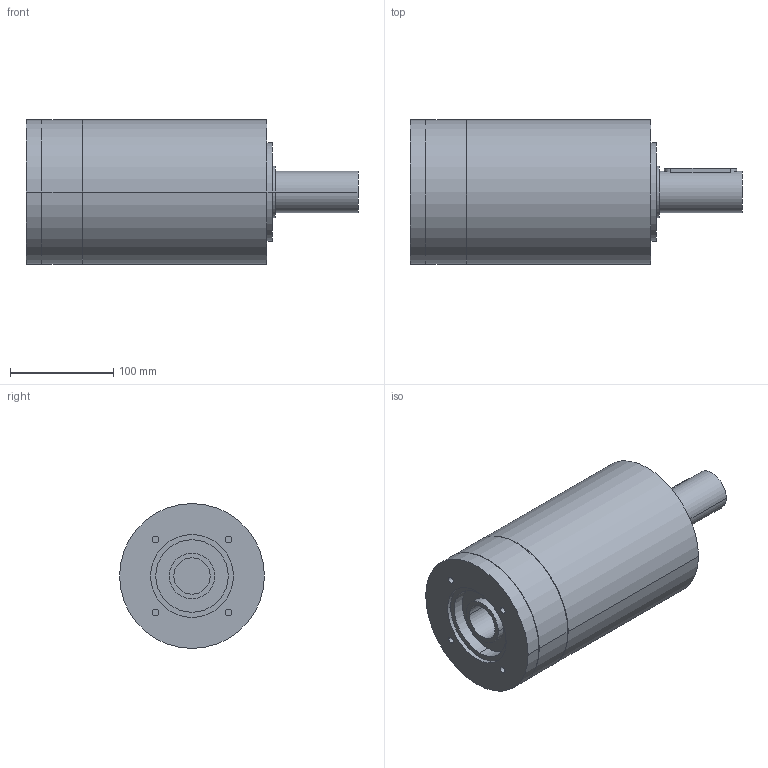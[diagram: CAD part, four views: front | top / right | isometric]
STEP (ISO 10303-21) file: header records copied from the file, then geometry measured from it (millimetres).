
FILE_DESCRIPTION(('CoCreate Modeling STEP Export'),'2;1');
FILE_NAME('GPR150_ig-9-12-16-20-28-35_40_B14_35_P02.stp','2014-08-19T17:04:12',(''),(''),'CoCreate Modeling STEP processor for AP214 (Solid Model)','CoCreate Modeling 16.00C 25-Feb-2009 (C) Parametric Technology GmbH','');
FILE_SCHEMA(('AUTOMOTIVE_DESIGN { 1 0 10303 214 1 1 1 1 }'));
Length unit declared in the file: millimetre
Products named in the file (2): GPR150_ig-9-12-16-20-28-35_40_B14_35_P02
Assembly tree (1 placements, depth 2):
  GPR150_ig-9-12-16-20-28-35_40_B14_35_P02
    GPR150_ig-9-12-16-20-28-35_40_B14_35_P02
Bounding box: 321 x 140 x 140 mm (x, y, z)
Volume: 3589466.5 mm3; surface area: 166199.1 mm2
Topology: 1 solids, 1 shells, 80 faces, 198 edges, 140 vertices
Faces by surface type: cylinder 48, plane 26, cone 6
Entity records: 2030 total; most frequent: ORIENTED_EDGE 392, CARTESIAN_POINT 389, DIRECTION 262, EDGE_CURVE 196, VERTEX_POINT 140, EDGE_LOOP 102, AXIS2_PLACEMENT_3D 101, FACE_OUTER_BOUND 80
